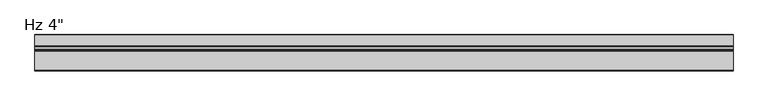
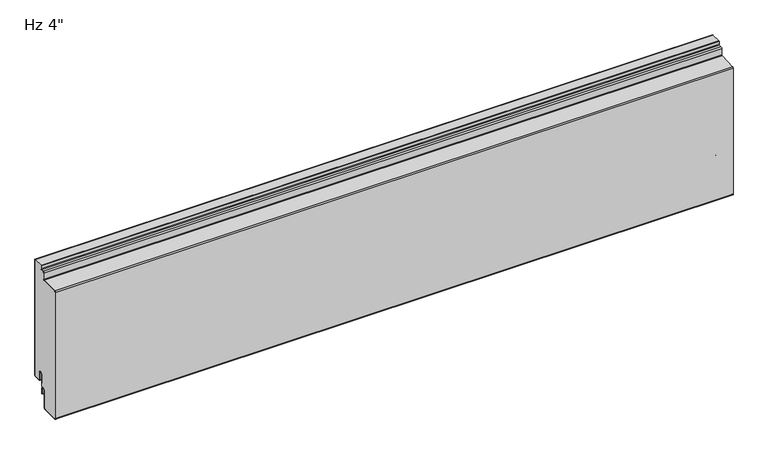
"""IFC4 building model written with IfcOpenShell, lengths in millimetres: plate geometry."""

from ifc_helpers import new_model, si_unit, point, frame, frame_2d, origin, place, context, project, spatial, polyline, circle_curve, trimmed, segment, composite_curve, outline, extrude, source, transform, mapped, element, save
from ifc_brep_helpers import plane_surface, cylinder_surface, revolved_surface, advanced_brep


def plate_5bdcaa59(model_context):
    return source(origin(), model_context, "Body", "SolidModel", [
        extrude(outline(composite_curve([segment(polyline([(-22.8122051, 259.7620957), (-22.8122051, 266.4), (-0.9997051, 266.4), (-0.9997051, 3.175)]), True, "CONTINUOUS"), segment(trimmed(circle_curve(frame_2d((-2.3809551, 3.175)), 1.38125), [point((-0.9997051, 3.175))], [point((-2.3809551, 1.79375))], False, "CARTESIAN"), True, "CONTINUOUS"), segment(polyline([(-2.3809551, 1.79375), (-15.0809548, 1.79375)]), True, "CONTINUOUS"), segment(trimmed(circle_curve(frame_2d((-15.0809548, 3.175)), 1.38125), [point((-15.0809548, 1.79375))], [point((-16.4622048, 3.175))], False, "CARTESIAN"), True, "CONTINUOUS"), segment(polyline([(-16.4622048, 3.175), (-16.4622048, 19.05)]), True, "CONTINUOUS"), segment(trimmed(circle_curve(frame_2d((-21.4309548, 19.05)), 4.96875), [point((-16.4622048, 19.05))], [point((-26.3997048, 19.05))], True, "CARTESIAN"), True, "CONTINUOUS"), segment(polyline([(-26.3997048, 19.05), (-26.3997048, -6.9378562), (-30.952521, -6.9378562)]), True, "CONTINUOUS"), segment(trimmed(circle_curve(frame_2d((-30.952521, -11.9060719)), 4.9682158), [point((-30.952521, -6.9378562))], [point((-35.9207368, -11.9060719))], True, "CARTESIAN"), True, "CONTINUOUS"), segment(polyline([(-35.9207368, -11.9060719), (-35.9207368, -49.8864779)]), True, "CONTINUOUS"), segment(trimmed(circle_curve(frame_2d((-37.3041083, -49.8864779)), 1.3833715), [point((-35.9207368, -49.8864779))], [point((-37.2046907, -51.2662724))], False, "CARTESIAN"), True, "CONTINUOUS"), segment(polyline([(-37.2046907, -51.2662724), (-73.8625914, -51.8500263)]), True, "CONTINUOUS"), segment(trimmed(circle_curve(frame_2d((-73.8185889, -50.4693162)), 1.3814111), [point((-73.8625914, -51.8500263))], [point((-75.2, -50.4693162))], False, "CARTESIAN"), True, "CONTINUOUS"), segment(polyline([(-75.2, -50.4693162), (-75.2, 236.8593805)]), True, "CONTINUOUS"), segment(trimmed(circle_curve(frame_2d((-73.8180277, 236.8593805)), 1.3819723), [point((-75.2, 236.8593805))], [point((-73.9050684, 238.2386091))], False, "CARTESIAN"), True, "CONTINUOUS"), segment(polyline([(-73.9050684, 238.2386091), (-34.8138889, 238.9809457)]), True, "CONTINUOUS"), segment(trimmed(circle_curve(frame_2d((-34.9308757, 241.5793906)), 2.601077), [point((-34.8138889, 238.9809457))], [point((-32.3297987, 241.5793906))], True, "CARTESIAN"), True, "CONTINUOUS"), segment(polyline([(-32.3297987, 241.5793906), (-32.3297987, 255.4979098)]), True, "CONTINUOUS"), segment(trimmed(circle_curve(frame_2d((-30.9520524, 255.4979098)), 1.3777463), [point((-32.3297987, 255.4979098))], [point((-31.0261331, 256.873663))], False, "CARTESIAN"), True, "CONTINUOUS"), segment(polyline([(-31.0261331, 256.873663), (-25.2631616, 257.1782012)]), True, "CONTINUOUS"), segment(trimmed(circle_curve(frame_2d((-25.3997048, 259.7620957)), 2.5874998), [point((-25.2631616, 257.1782012))], [point((-22.8122051, 259.7620957))], True, "CARTESIAN"), True, "CONTINUOUS")], self_intersect=False)), frame((-730.0, 0.0, 0.0), z_axis=(1.0, 0.0, 0.0), x_axis=(0.0, 1.0, 0.0)), (0.0, 0.0, 1.0), 1460.0),
        extrude(outline(composite_curve([segment(polyline([(-25.4, 0.79375), (-26.4, 0.79375), (-26.4, 19.05)]), True, "CONTINUOUS"), segment(trimmed(circle_curve(frame_2d((-21.43125, 19.05)), 4.96875), [point((-26.4, 19.05))], [point((-16.4625, 19.05))], False, "CARTESIAN"), True, "CONTINUOUS"), segment(polyline([(-16.4625, 19.05), (-16.4625, 3.175)]), True, "CONTINUOUS"), segment(trimmed(circle_curve(frame_2d((-15.08125, 3.175)), 1.38125), [point((-16.4625, 3.175))], [point((-15.08125, 1.79375))], True, "CARTESIAN"), True, "CONTINUOUS"), segment(polyline([(-15.08125, 1.79375), (-2.38125, 1.79375)]), True, "CONTINUOUS"), segment(trimmed(circle_curve(frame_2d((-2.38125, 3.175)), 1.38125), [point((-2.38125, 1.79375))], [point((-1.0, 3.175))], True, "CARTESIAN"), True, "CONTINUOUS"), segment(polyline([(-1.0, 3.175), (-1.0, 266.4), (0.0, 266.4), (0.0, 3.175)]), True, "CONTINUOUS"), segment(trimmed(circle_curve(frame_2d((-2.38125, 3.175)), 2.38125), [point((0.0, 3.175))], [point((-2.38125, 0.79375))], False, "CARTESIAN"), True, "CONTINUOUS"), segment(polyline([(-2.38125, 0.79375), (-15.08125, 0.79375)]), True, "CONTINUOUS"), segment(trimmed(circle_curve(frame_2d((-15.08125, 3.175)), 2.38125), [point((-15.08125, 0.79375))], [point((-17.4625, 3.175))], False, "CARTESIAN"), True, "CONTINUOUS"), segment(polyline([(-17.4625, 3.175), (-17.4625, 19.05)]), True, "CONTINUOUS"), segment(trimmed(circle_curve(frame_2d((-21.43125, 19.05)), 3.96875), [point((-17.4625, 19.05))], [point((-25.4, 19.05))], True, "CARTESIAN"), True, "CONTINUOUS"), segment(polyline([(-25.4, 19.05), (-25.4, 0.79375)]), True, "CONTINUOUS")], self_intersect=False)), frame((-730.0, 0.0, 0.0), z_axis=(1.0, 0.0, 0.0), x_axis=(0.0, 1.0, 0.0)), (0.0, 0.0, 1.0), 1460.0),
        advanced_brep(
        [(-730.0, -25.4, -23.2171875), (-730.0, -26.9875, -23.2171875), (-730.0, -26.9875, -11.90625), (-730.0, -34.9235365, -11.90625), (-730.0, -34.9235365, -49.8867763), (-730.0, -37.180907, -52.2655484), (-730.0, -73.8674722, -52.8501201), (-730.0, -76.2, -50.4693686), (-730.0, -76.2, 236.8615956), (-730.0, -73.943409, 239.2395804), (-730.0, -34.8409333, 239.9568264), (-730.0, -33.335518, 241.5432031), (-730.0, -33.335518, 255.4970298), (-730.0, -31.080058, 257.8740657), (-730.0, -25.3167321, 258.176781), (-730.0, -23.8125, 259.7620957), (-730.0, -23.8125, 266.4), (-730.0, -22.8125, 266.4), (-730.0, -22.8125, 259.7620957), (-730.0, -25.2643108, 257.178156), (-730.0, -31.0277025, 256.8755067), (-730.0, -32.3357231, 255.4969966), (-730.0, -32.3357231, 241.5432226), (-730.0, -34.8077585, 238.9573879), (-730.0, -73.9057453, 238.2401033), (-730.0, -75.2, 236.8615956), (-730.0, -75.2, -50.4693686), (-730.0, -73.730714, -51.8478244), (-730.0, -37.2049859, -51.2662724), (-730.0, -35.9213722, -49.9171557), (-730.0, -35.9213722, -11.90625), (-730.0, -25.9875, -11.90625), (-730.0, -26.19375, -13.49375), (-730.0, -25.4, -13.49375), (730.0, -25.4, -23.2171875), (730.0, -25.4, -13.49375), (730.0, -26.19375, -13.49375), (730.0, -25.9875, -11.90625), (730.0, -35.9213722, -11.90625), (730.0, -35.9213722, -49.9171557), (730.0, -37.2049859, -51.2662724), (730.0, -73.8628015, -51.8499275), (730.0, -75.1999873, -50.4693656), (730.0, -75.2, 236.8615956), (730.0, -73.9057453, 238.2401033), (730.0, -34.8077585, 238.9573879), (730.0, -32.3357231, 241.5432226), (730.0, -32.3357231, 255.4969966), (730.0, -31.0277025, 256.8755067), (730.0, -25.2643108, 257.178156), (730.0, -22.8125, 259.7620957), (730.0, -22.8125, 266.4), (730.0, -23.8125, 266.4), (730.0, -23.8125, 259.7620957), (730.0, -25.3167321, 258.176781), (730.0, -31.080058, 257.8740657), (730.0, -33.335518, 255.4970298), (730.0, -33.335518, 241.5432031), (730.0, -34.8409333, 239.9568264), (730.0, -73.943409, 239.2395804), (730.0, -76.2, 236.8615956), (730.0, -76.2, -50.4693686), (730.0, -73.8674722, -52.8501201), (730.0, -37.180907, -52.2655484), (730.0, -34.9235365, -49.8867763), (730.0, -34.9235365, -11.90625), (730.0, -26.9875, -11.90625), (730.0, -26.9875, -23.2171875)],
        [
            (0, 1, circle_curve(frame((-730.0, -26.19375, -23.2171875), z_axis=(-1.0, 0.0, 0.0), x_axis=(0.0, 0.0, -1.0)), 0.79375)),
            (1, 2),
            (2, 3, circle_curve(frame((-730.0, -30.9555183, -11.90625), z_axis=(1.0, 0.0, 0.0), x_axis=(0.0, 0.0, -1.0)), 3.9680183)),
            (3, 4),
            (4, 5, circle_curve(frame((-730.0, -37.3055732, -49.8867763), z_axis=(-1.0, 0.0, 0.0), x_axis=(0.0, 0.0, -1.0)), 2.3820366)),
            (5, 6),
            (6, 7, circle_curve(frame((-730.0, -73.81875, -50.4693686), z_axis=(-1.0, 0.0, 0.0), x_axis=(0.0, 0.0, -1.0)), 2.38125)),
            (7, 8),
            (8, 9, circle_curve(frame((-730.0, -73.81875, 236.8615956), z_axis=(-1.0, 0.0, 0.0), x_axis=(0.0, 0.0, -1.0)), 2.38125)),
            (9, 10),
            (10, 11, circle_curve(frame((-730.0, -34.9240718, 241.5432031), z_axis=(1.0, 0.0, 0.0), x_axis=(0.0, 0.0, -1.0)), 1.5885537)),
            (11, 12),
            (12, 13, circle_curve(frame((-730.0, -30.9552056, 255.4970298), z_axis=(-1.0, 0.0, 0.0), x_axis=(0.0, 0.0, -1.0)), 2.3803125)),
            (13, 14),
            (14, 15, circle_curve(frame((-730.0, -25.4, 259.7620957), z_axis=(1.0, 0.0, 0.0), x_axis=(0.0, 0.0, -1.0)), 1.5875)),
            (15, 16),
            (16, 17),
            (17, 18),
            (18, 19, circle_curve(frame((-730.0, -25.4, 259.7620957), z_axis=(-1.0, 0.0, 0.0), x_axis=(0.0, 0.0, -1.0)), 2.5875)),
            (19, 20),
            (20, 21, circle_curve(frame((-730.0, -30.9553137, 255.4969966), z_axis=(1.0, 0.0, 0.0), x_axis=(0.0, 0.0, -1.0)), 1.3804094)),
            (21, 22),
            (22, 23, circle_curve(frame((-730.0, -34.9241772, 241.5432226), z_axis=(-1.0, 0.0, 0.0), x_axis=(0.0, 0.0, -1.0)), 2.5884541)),
            (23, 24),
            (24, 25, circle_curve(frame((-730.0, -73.81875, 236.8615956), z_axis=(1.0, 0.0, 0.0), x_axis=(0.0, 0.0, -1.0)), 1.38125)),
            (25, 26),
            (26, 27, circle_curve(frame((-730.0, -73.8187219, -50.4693656), z_axis=(1.0, 0.0, 0.0), x_axis=(0.0, 0.0, -1.0)), 1.3812654)),
            (27, 28),
            (28, 29, circle_curve(frame((-730.0, -37.3044035, -49.8864779), z_axis=(1.0, 0.0, 0.0), x_axis=(0.0, 0.0, -1.0)), 1.3833715)),
            (29, 30),
            (30, 31, circle_curve(frame((-730.0, -30.9544361, -11.90625), z_axis=(-1.0, 0.0, 0.0), x_axis=(0.0, 0.0, -1.0)), 4.9669361)),
            (31, 32),
            (32, 33),
            (33, 0),
            (34, 35),
            (35, 36),
            (36, 37),
            (37, 38, circle_curve(frame((730.0, -30.9544361, -11.90625), z_axis=(1.0, 0.0, 0.0), x_axis=(0.0, 0.0, -1.0)), 4.9669361)),
            (38, 39),
            (39, 40, circle_curve(frame((730.0, -37.3044035, -49.8864779), z_axis=(-1.0, 0.0, 0.0), x_axis=(0.0, 0.0, -1.0)), 1.3833715)),
            (40, 41),
            (41, 42, circle_curve(frame((730.0, -73.8187219, -50.4693656), z_axis=(-1.0, 0.0, 0.0), x_axis=(0.0, 0.0, -1.0)), 1.3812654)),
            (42, 43),
            (43, 44, circle_curve(frame((730.0, -73.81875, 236.8615956), z_axis=(-1.0, 0.0, 0.0), x_axis=(0.0, 0.0, -1.0)), 1.38125)),
            (44, 45),
            (45, 46, circle_curve(frame((730.0, -34.9241772, 241.5432226), z_axis=(1.0, 0.0, 0.0), x_axis=(0.0, 0.0, -1.0)), 2.5884541)),
            (46, 47),
            (47, 48, circle_curve(frame((730.0, -30.9553137, 255.4969966), z_axis=(-1.0, 0.0, 0.0), x_axis=(0.0, 0.0, -1.0)), 1.3804094)),
            (48, 49),
            (49, 50, circle_curve(frame((730.0, -25.4, 259.7620957), z_axis=(1.0, 0.0, 0.0), x_axis=(0.0, 0.0, -1.0)), 2.5875)),
            (50, 51),
            (51, 52),
            (52, 53),
            (53, 54, circle_curve(frame((730.0, -25.4, 259.7620957), z_axis=(-1.0, 0.0, 0.0), x_axis=(0.0, 0.0, -1.0)), 1.5875)),
            (54, 55),
            (55, 56, circle_curve(frame((730.0, -30.9552056, 255.4970298), z_axis=(1.0, 0.0, 0.0), x_axis=(0.0, 0.0, -1.0)), 2.3803125)),
            (56, 57),
            (57, 58, circle_curve(frame((730.0, -34.9240718, 241.5432031), z_axis=(-1.0, 0.0, 0.0), x_axis=(0.0, 0.0, -1.0)), 1.5885537)),
            (58, 59),
            (59, 60, circle_curve(frame((730.0, -73.81875, 236.8615956), z_axis=(1.0, 0.0, 0.0), x_axis=(0.0, 0.0, -1.0)), 2.38125)),
            (60, 61),
            (61, 62, circle_curve(frame((730.0, -73.81875, -50.4693686), z_axis=(1.0, 0.0, 0.0), x_axis=(0.0, 0.0, -1.0)), 2.38125)),
            (62, 63),
            (63, 64, circle_curve(frame((730.0, -37.3055732, -49.8867763), z_axis=(1.0, 0.0, 0.0), x_axis=(0.0, 0.0, -1.0)), 2.3820366)),
            (64, 65),
            (65, 66, circle_curve(frame((730.0, -30.9555183, -11.90625), z_axis=(-1.0, 0.0, 0.0), x_axis=(0.0, 0.0, -1.0)), 3.9680183)),
            (66, 67),
            (67, 34, circle_curve(frame((730.0, -26.19375, -23.2171875), z_axis=(1.0, 0.0, 0.0), x_axis=(0.0, 0.0, -1.0)), 0.79375)),
            (1, 67),
            (66, 2),
            (65, 3),
            (64, 4),
            (5, 63),
            (62, 6),
            (33, 35),
            (34, 0),
            (25, 43),
            (42, 26),
            (61, 7),
            (60, 8),
            (28, 40),
            (39, 29),
            (27, 41),
            (32, 36),
            (31, 37),
            (38, 30),
            (9, 59),
            (58, 10),
            (11, 57),
            (56, 12),
            (24, 44),
            (22, 46),
            (45, 23),
            (21, 47),
            (16, 52),
            (51, 17),
            (55, 13),
            (54, 14),
            (53, 15),
            (20, 48),
            (18, 50),
            (49, 19),
        ],
        [
            plane_surface(frame((-730.0, -76.2, 152.4), z_axis=(-1.0, 0.0, 0.0), x_axis=(0.0, -1.0, 0.0))),
            plane_surface(frame((730.0, -76.2, 152.4), z_axis=(1.0, 0.0, 0.0), x_axis=(0.0, -1.0, 0.0))),
            plane_surface(frame((-730.0, -26.9875, -11.90625), z_axis=(0.0, -1.0, 0.0), x_axis=(1.0, 0.0, 0.0))),
            revolved_surface(polyline([(730.0, -30.9555183, -15.8742683), (-730.0, -30.9555183, -15.8742683)]), (-730.0, -30.9555183, -11.90625), (1.0, 0.0, 0.0)),
            plane_surface(frame((-730.0, -34.9235365, -49.8867763), z_axis=(0.0, 1.0, 0.0), x_axis=(1.0, 0.0, 0.0))),
            plane_surface(frame((-730.0, -73.8674722, -52.8501201), z_axis=(0.0, 0.015932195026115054, -0.999873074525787), x_axis=(1.0, 0.0, 0.0))),
            plane_surface(frame((-730.0, -25.4, -23.2171875), z_axis=(0.0, 1.0, 0.0), x_axis=(1.0, 0.0, 0.0))),
            cylinder_surface(frame((-730.0, -26.19375, -23.2171875), z_axis=(-1.0, 0.0, 0.0), x_axis=(0.0, 0.0, -1.0)), 0.79375),
            plane_surface(frame((-730.0, -75.2, -50.4693686), z_axis=(0.0, 1.0, 0.0), x_axis=(1.0, 0.0, 0.0))),
            cylinder_surface(frame((-730.0, -73.81875, -50.4693686), z_axis=(-1.0, 0.0, 0.0), x_axis=(0.0, 0.0, -1.0)), 2.38125),
            plane_surface(frame((-730.0, -76.2, 236.8615956), z_axis=(0.0, -1.0, 0.0), x_axis=(1.0, 0.0, 0.0))),
            revolved_surface(polyline([(730.0, -37.3044035, -51.269849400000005), (-730.0, -37.3044035, -51.269849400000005)]), (-730.0, -37.3044035, -49.8864779), (1.0, 0.0, 0.0)),
            plane_surface(frame((-730.0, -37.2049859, -51.2662724), z_axis=(0.0, -0.015919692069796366, 0.9998732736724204), x_axis=(1.0, 0.0, 0.0))),
            revolved_surface(polyline([(730.0, -73.8187219, -51.850631), (-730.0, -73.8187219, -51.850631)]), (-730.0, -73.8187219, -50.4693656), (1.0, 0.0, 0.0)),
            cylinder_surface(frame((-730.0, -37.3055732, -49.8867763), z_axis=(-1.0, 0.0, 0.0), x_axis=(0.0, 0.0, -1.0)), 2.3820366),
            plane_surface(frame((-730.0, -25.4, -13.49375), z_axis=(0.0, 0.0, 1.0), x_axis=(1.0, 0.0, 0.0))),
            plane_surface(frame((-730.0, -26.19375, -13.49375), z_axis=(0.0, 0.9916655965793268, -0.1288384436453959), x_axis=(1.0, 0.0, 0.0))),
            plane_surface(frame((-730.0, -35.9213722, -11.90625), z_axis=(0.0, -1.0, 0.0), x_axis=(1.0, 0.0, 0.0))),
            cylinder_surface(frame((-730.0, -30.9544361, -11.90625), z_axis=(-1.0, 0.0, 0.0), x_axis=(0.0, 0.0, -1.0)), 4.9669361),
            plane_surface(frame((-730.0, -34.8409333, 239.9568264), z_axis=(0.0, -0.01833964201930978, 0.9998318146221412), x_axis=(1.0, 0.0, 0.0))),
            plane_surface(frame((-730.0, -33.335518, 255.4970298), z_axis=(0.0, -1.0, 0.0), x_axis=(1.0, 0.0, 0.0))),
            cylinder_surface(frame((-730.0, -73.81875, 236.8615956), z_axis=(-1.0, 0.0, 0.0), x_axis=(0.0, 0.0, -1.0)), 2.38125),
            revolved_surface(polyline([(730.0, -73.81875, 235.4803456), (-730.0, -73.81875, 235.4803456)]), (-730.0, -73.81875, 236.8615956), (1.0, 0.0, 0.0)),
            cylinder_surface(frame((-730.0, -34.9241772, 241.5432226), z_axis=(-1.0, 0.0, 0.0), x_axis=(0.0, 0.0, -1.0)), 2.5884541),
            plane_surface(frame((-730.0, -73.9057453, 238.2401033), z_axis=(0.0, 0.018342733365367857, -0.9998317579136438), x_axis=(1.0, 0.0, 0.0))),
            revolved_surface(polyline([(730.0, -34.9240718, 239.9546494), (-730.0, -34.9240718, 239.9546494)]), (-730.0, -34.9240718, 241.5432031), (1.0, 0.0, 0.0)),
            plane_surface(frame((-730.0, -32.3357231, 241.5432226), z_axis=(0.0, 1.0, 0.0), x_axis=(1.0, 0.0, 0.0))),
            plane_surface(frame((730.0, 10.0, 266.4), z_axis=(0.0, 0.0, 1.0), x_axis=(-1.0, 0.0, 0.0))),
            cylinder_surface(frame((-730.0, -30.9552056, 255.4970298), z_axis=(-1.0, 0.0, 0.0), x_axis=(0.0, 0.0, -1.0)), 2.3803125),
            plane_surface(frame((-730.0, -25.3167321, 258.176781), z_axis=(0.0, -0.05245211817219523, 0.9986234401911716), x_axis=(1.0, 0.0, 0.0))),
            revolved_surface(polyline([(730.0, -25.4, 258.1745957), (-730.0, -25.4, 258.1745957)]), (-730.0, -25.4, 259.7620957), (1.0, 0.0, 0.0)),
            plane_surface(frame((-730.0, -23.8125, 274.6375), z_axis=(0.0, -1.0, 0.0), x_axis=(1.0, 0.0, 0.0))),
            revolved_surface(polyline([(730.0, -30.9553137, 254.1165872), (-730.0, -30.9553137, 254.1165872)]), (-730.0, -30.9553137, 255.4969966), (1.0, 0.0, 0.0)),
            cylinder_surface(frame((-730.0, -25.4, 259.7620957), z_axis=(-1.0, 0.0, 0.0), x_axis=(0.0, 0.0, -1.0)), 2.5875),
            plane_surface(frame((-730.0, -31.0277025, 256.8755067), z_axis=(0.0, 0.05244010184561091, -0.9986240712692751), x_axis=(1.0, 0.0, 0.0))),
            plane_surface(frame((-730.0, -22.8125, 259.7620957), z_axis=(0.0, 1.0, 0.0), x_axis=(1.0, 0.0, 0.0))),
        ],
        [
            (0, [[1, 2, 3, 4, 5, 6, 7, 8, 9, 10, 11, 12, 13, 14, 15, 16, 17, 18, 19, 20, 21, 22, 23, 24, 25, 26, 27, 28, 29, 30, 31, 32, 33, 34]]),
            (1, [[35, 36, 37, 38, 39, 40, 41, 42, 43, 44, 45, 46, 47, 48, 49, 50, 51, 52, 53, 54, 55, 56, 57, 58, 59, 60, 61, 62, 63, 64, 65, 66, 67, 68]]),
            (2, [[69, -67, 70, -2]]),
            (3, [[-70, -66, 71, -3]]),
            (4, [[-71, -65, 72, -4]]),
            (5, [[73, -63, 74, -6]]),
            (6, [[75, -35, 76, -34]]),
            (7, [[-76, -68, -69, -1]]),
            (8, [[77, -43, 78, -26]]),
            (9, [[-74, -62, 79, -7]]),
            (10, [[-79, -61, 80, -8]]),
            (11, [[81, -40, 82, -29]]),
            (12, [[83, -41, -81, -28]]),
            (13, [[-78, -42, -83, -27]]),
            (14, [[-72, -64, -73, -5]]),
            (15, [[84, -36, -75, -33]]),
            (16, [[85, -37, -84, -32]]),
            (17, [[-82, -39, 86, -30]]),
            (18, [[-86, -38, -85, -31]]),
            (19, [[87, -59, 88, -10]]),
            (20, [[89, -57, 90, -12]]),
            (21, [[-80, -60, -87, -9]]),
            (22, [[91, -44, -77, -25]]),
            (23, [[92, -46, 93, -23]]),
            (24, [[-93, -45, -91, -24]]),
            (25, [[-88, -58, -89, -11]]),
            (26, [[94, -47, -92, -22]]),
            (27, [[95, -52, 96, -17]]),
            (28, [[-90, -56, 97, -13]]),
            (29, [[-97, -55, 98, -14]]),
            (30, [[-98, -54, 99, -15]]),
            (31, [[-53, -95, -16, -99]]),
            (32, [[100, -48, -94, -21]]),
            (33, [[101, -50, 102, -19]]),
            (34, [[-102, -49, -100, -20]]),
            (35, [[-18, -96, -51, -101]]),
        ],
    ),
    ])


if __name__ == "__main__":
    model = new_model("IFC4")
    model_context = context("Model", 3, world=origin())
    ifc_project = project(units=[si_unit("LENGTHUNIT", "METRE", prefix="MILLI")], contexts=[model_context])
    site = spatial("IfcSite", under=ifc_project)
    building = spatial("IfcBuilding", under=site)
    placement = place(None, origin())
    plate_shape = plate_5bdcaa59(model_context)
    element("IfcPlate", 1, ObjectType="KIP-12-DWDJ-R19-CP-Hz-F : Hz 4\"", at=placement, inside=building, context=model_context, shape_type="MappedRepresentation", body=[
        mapped(plate_shape, transform((0.0, 0.0, 0.0), x_axis=(1.0, 0.0, 0.0), y_axis=(0.0, 1.0, 0.0), z_axis=(0.0, 0.0, 1.0))),
    ])
    save(model, "model.ifc")
